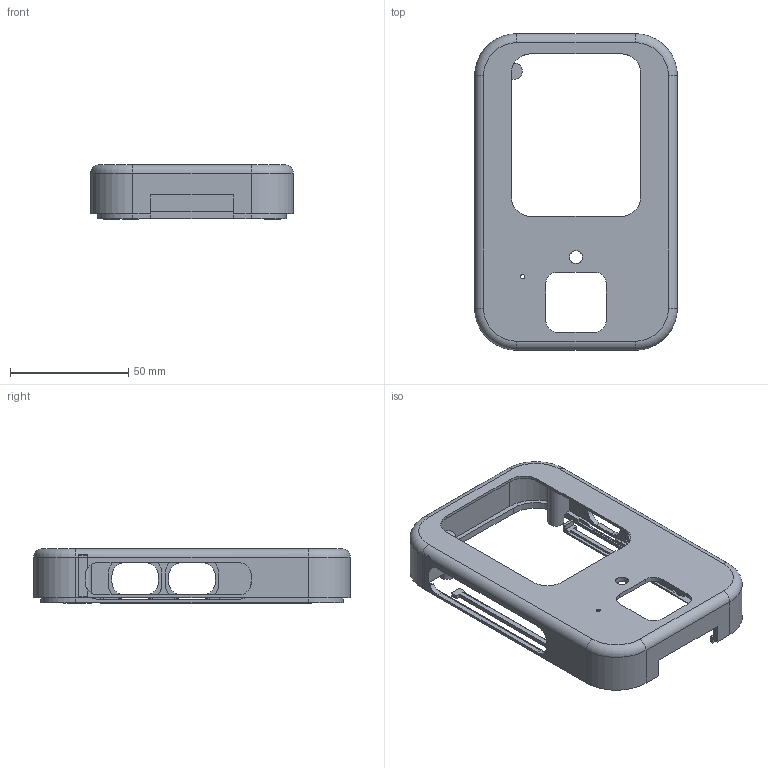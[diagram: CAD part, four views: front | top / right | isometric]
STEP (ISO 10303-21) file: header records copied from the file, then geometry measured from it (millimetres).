
FILE_DESCRIPTION(('Open CASCADE Model'),'2;1');
FILE_NAME('Open CASCADE Shape Model','2026-09-06T11:38:35',('Author'),( 'Open CASCADE'),'Open CASCADE STEP processor 7.7','Open CASCADE 7.7' ,'Unknown');
FILE_SCHEMA(('AUTOMOTIVE_DESIGN { 1 0 10303 214 1 1 1 1 }'));
Length unit declared in the file: millimetre
Products named in the file (1): Open CASCADE STEP translator 7.7 2
Bounding box: 85.6 x 133.6 x 23.2 mm (x, y, z)
Volume: 33995.3 mm3; surface area: 33918.4 mm2
Topology: 1 solids, 1 shells, 418 faces, 1156 edges, 766 vertices
Faces by surface type: plane 286, cylinder 124, torus 8
Full cylindrical faces by diameter (mm): 1.1 x2, 1.25 x10, 1.6 x3, 1.8 x1, 2.1 x3, 3.6 x4, 4 x3, 4.6 x2, 5.4 x1, 6.3 x1, 6.8 x4
Entity records: 28569 total; most frequent: CARTESIAN_POINT 5744, DIRECTION 4204, LINE 2548, VECTOR 2548, ORIENTED_EDGE 2312, PCURVE 2312, DEFINITIONAL_REPRESENTATION 2312, EDGE_CURVE 1156
